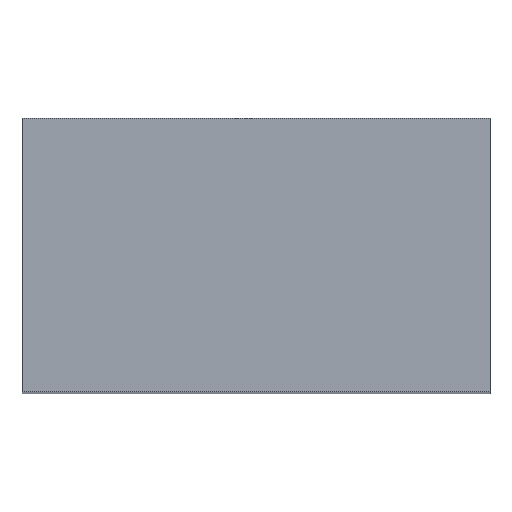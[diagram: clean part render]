
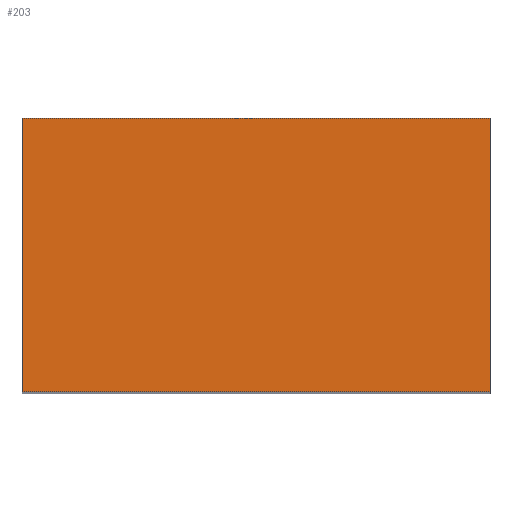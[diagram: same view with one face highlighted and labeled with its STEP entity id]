
A CAD part, top view. The second image highlights one B-rep face of the part: STEP entity #203.
In plain terms, the highlighted planar face has unit normal (0, 0, 1).
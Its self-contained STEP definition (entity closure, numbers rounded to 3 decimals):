
#14 = VERTEX_POINT ( 'NONE', #194 ) ;
#16 = EDGE_CURVE ( 'NONE', #131, #222, #124, .T. ) ;
#23 = ORIENTED_EDGE ( 'NONE', *, *, #109, .T. ) ;
#25 = DIRECTION ( 'NONE',  ( 1., 0., 0. ) ) ;
#27 = CARTESIAN_POINT ( 'NONE',  ( 0., 38., 165. ) ) ;
#30 = CARTESIAN_POINT ( 'NONE',  ( 0., 0., 165. ) ) ;
#44 = VERTEX_POINT ( 'NONE', #45 ) ;
#45 = CARTESIAN_POINT ( 'NONE',  ( -65., 38., 165. ) ) ;
#67 = CARTESIAN_POINT ( 'NONE',  ( 0., 0., 165. ) ) ;
#72 = DIRECTION ( 'NONE',  ( 1., 0., 0. ) ) ;
#90 = DIRECTION ( 'NONE',  ( 0., 0., 1. ) ) ;
#91 = LINE ( 'NONE', #159, #119 ) ;
#100 = CARTESIAN_POINT ( 'NONE',  ( 0., 0., 165. ) ) ;
#103 = ORIENTED_EDGE ( 'NONE', *, *, #180, .T. ) ;
#105 = PLANE ( 'NONE',  #165 ) ;
#107 = LINE ( 'NONE', #27, #221 ) ;
#109 = EDGE_CURVE ( 'NONE', #44, #131, #91, .T. ) ;
#111 = VECTOR ( 'NONE', #213, 1000. ) ;
#119 = VECTOR ( 'NONE', #193, 1000. ) ;
#123 = CARTESIAN_POINT ( 'NONE',  ( 0., 0., 165. ) ) ;
#124 = LINE ( 'NONE', #67, #135 ) ;
#131 = VERTEX_POINT ( 'NONE', #208 ) ;
#135 = VECTOR ( 'NONE', #25, 1000. ) ;
#153 = ORIENTED_EDGE ( 'NONE', *, *, #16, .T. ) ;
#159 = CARTESIAN_POINT ( 'NONE',  ( -65., 0., 165. ) ) ;
#165 = AXIS2_PLACEMENT_3D ( 'NONE', #30, #90, #72 ) ;
#180 = EDGE_CURVE ( 'NONE', #14, #44, #107, .T. ) ;
#185 = ORIENTED_EDGE ( 'NONE', *, *, #191, .T. ) ;
#186 = FACE_OUTER_BOUND ( 'NONE', #202, .T. ) ;
#191 = EDGE_CURVE ( 'NONE', #222, #14, #237, .T. ) ;
#193 = DIRECTION ( 'NONE',  ( 0., -1., 0. ) ) ;
#194 = CARTESIAN_POINT ( 'NONE',  ( 0., 38., 165. ) ) ;
#199 = DIRECTION ( 'NONE',  ( -1., 0., 0. ) ) ;
#202 = EDGE_LOOP ( 'NONE', ( #185, #103, #23, #153 ) ) ;
#203 = ADVANCED_FACE ( 'NONE', ( #186 ), #105, .T. ) ;
#208 = CARTESIAN_POINT ( 'NONE',  ( -65., 0., 165. ) ) ;
#213 = DIRECTION ( 'NONE',  ( 0., 1., 0. ) ) ;
#221 = VECTOR ( 'NONE', #199, 1000. ) ;
#222 = VERTEX_POINT ( 'NONE', #123 ) ;
#237 = LINE ( 'NONE', #100, #111 ) ;
